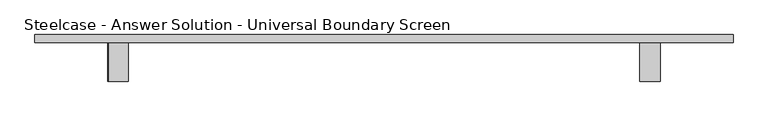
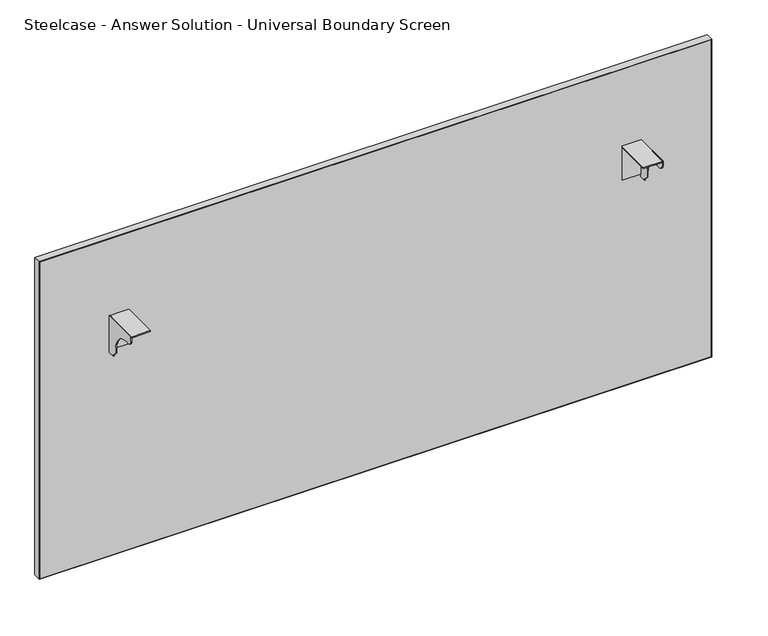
"""IFC4 building model written with IfcOpenShell, lengths in millimetres: furniture geometry, Steelcase - Answer Solution - Universal Boundary Screen : 36H x 72W."""

from ifc_helpers import new_model, si_unit, point, frame, frame_2d, origin, place, context, project, spatial, polyline, circle_curve, trimmed, segment, composite_curve, outline, extrude, source, transform, mapped, element, save


def steelcase_answer_solution_universal_boundary_screen_59a2fa02(model_context):
    return source(origin(), model_context, "Body", "SweptSolid", [
        extrude(outline(polyline([(-103.1670434, 689.3558876), (-103.1670434, 692.1499758), (-1.5668826, 692.1499758), (-1.5668826, 595.5029317), (-4.1079736, 595.5029317), (-4.1079736, 689.3558876), (-103.1670434, 689.3558876)])), frame((1200.6336711, 0.0, 0.0), z_axis=(1.0, 0.0, 0.0), x_axis=(0.0, 1.0, 0.0)), (0.0, 0.0, 1.0), 53.3444116),
        extrude(outline(composite_curve([segment(polyline([(-103.1670434, 679.2814802), (-103.1670434, 692.1499758), (-1.5668826, 692.1499758), (-1.5668826, 586.9634093), (-19.8232934, 586.9634093), (-19.8232934, 589.7574248), (-32.0458032, 601.9799346), (-32.0458032, 615.7814802)]), True, "CONTINUOUS"), segment(trimmed(circle_curve(frame_2d((-82.8458032, 615.7814802)), 50.8), [point((-32.0458032, 615.7814802))], [point((-82.8458032, 666.5814802))], True, "CARTESIAN"), True, "CONTINUOUS"), segment(polyline([(-82.8458032, 666.5814802), (-90.4670434, 666.5814802)]), True, "CONTINUOUS"), segment(trimmed(circle_curve(frame_2d((-90.4670434, 679.2814802)), 12.7), [point((-90.4670434, 666.5814802))], [point((-103.1670434, 679.2814802))], False, "CARTESIAN"), True, "CONTINUOUS")], self_intersect=False)), frame((1251.4328959, 0.0, 0.0), z_axis=(1.0, 0.0, 0.0), x_axis=(0.0, 1.0, 0.0)), (0.0, 0.0, 1.0), 2.5451868),
        extrude(outline(polyline([(-103.1670434, 689.3558876), (-103.1670434, 692.1499758), (-1.5668826, 692.1499758), (-1.5668826, 595.5029317), (-4.1079736, 595.5029317), (-4.1079736, 689.3558876), (-103.1670434, 689.3558876)])), frame((-191.2767306, 0.0, 0.0), z_axis=(1.0, 0.0, 0.0), x_axis=(0.0, 1.0, 0.0)), (0.0, 0.0, 1.0), 50.7992249),
        extrude(outline(composite_curve([segment(polyline([(-103.1670434, 679.2814802), (-103.1670434, 692.1499758), (-1.5668826, 692.1499758), (-1.5668826, 586.9634093), (-19.8232934, 586.9634093), (-19.8232934, 589.7574248), (-32.0458032, 601.9799346), (-32.0458032, 615.7814802)]), True, "CONTINUOUS"), segment(trimmed(circle_curve(frame_2d((-82.8458032, 615.7814802)), 50.8), [point((-32.0458032, 615.7814802))], [point((-82.8458032, 666.5814802))], True, "CARTESIAN"), True, "CONTINUOUS"), segment(polyline([(-82.8458032, 666.5814802), (-90.4670434, 666.5814802)]), True, "CONTINUOUS"), segment(trimmed(circle_curve(frame_2d((-90.4670434, 679.2814802)), 12.7), [point((-90.4670434, 666.5814802))], [point((-103.1670434, 679.2814802))], False, "CARTESIAN"), True, "CONTINUOUS")], self_intersect=False)), frame((-193.8219173, 0.0, 0.0), z_axis=(1.0, 0.0, 0.0), x_axis=(0.0, 1.0, 0.0)), (0.0, 0.0, 1.0), 2.5451868),
        extrude(outline(polyline([(-383.3293422, 18.9055112), (1443.4855076, 18.9055112), (1443.4855076, -1.5668826), (-383.3293422, -1.5668826), (-383.3293422, 18.9055112)])), frame((0.0, 0.0, 1.016), z_axis=(0.0, 0.0, 1.0), x_axis=(1.0, 0.0, 0.0)), (0.0, 0.0, 1.0), 912.3914249),
        extrude(outline(polyline([(914.4, 1444.4780827), (914.4, -384.3219173), (0.0, -384.3219173), (0.0, 1444.4780827), (914.4, 1444.4780827)]), holes=[polyline([(913.4074249, 1443.4855076), (1.016, 1443.4855076), (1.016, -383.3293422), (913.4074249, -383.3293422), (913.4074249, 1443.4855076)])]), frame((0.0, -1.5668826, 0.0), z_axis=(0.0, 1.0, 0.0), x_axis=(0.0, 0.0, 1.0)), (0.0, 0.0, 1.0), 20.4723938),
    ])


if __name__ == "__main__":
    model = new_model("IFC4")
    model_context = context("Model", 3, world=origin())
    ifc_project = project(units=[si_unit("LENGTHUNIT", "METRE", prefix="MILLI")], contexts=[model_context])
    site = spatial("IfcSite", under=ifc_project)
    building = spatial("IfcBuilding", under=site)
    placement = place(None, origin())
    steelcase_answer_solution_universal_boundary_screen_shape = steelcase_answer_solution_universal_boundary_screen_59a2fa02(model_context)
    element("IfcFurniture", 1, ObjectType="Steelcase - Answer Solution - Universal Boundary Screen : 36H x 72W", at=placement, inside=building, context=model_context, shape_type="MappedRepresentation", body=[
        mapped(steelcase_answer_solution_universal_boundary_screen_shape, transform((0.0, 0.0, 0.0), x_axis=(1.0, 0.0, 0.0), y_axis=(0.0, 1.0, 0.0), z_axis=(0.0, 0.0, 1.0))),
    ])
    save(model, "model.ifc")
